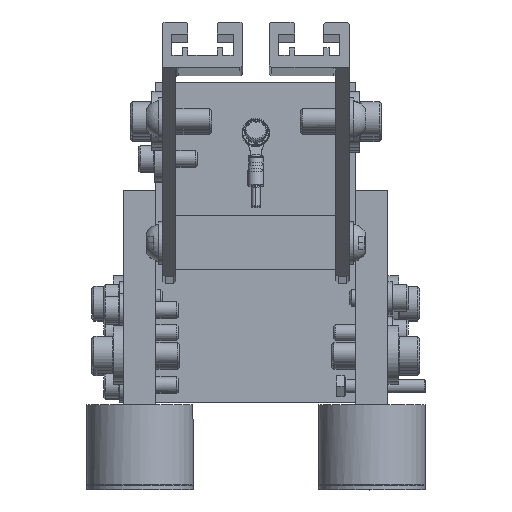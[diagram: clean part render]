
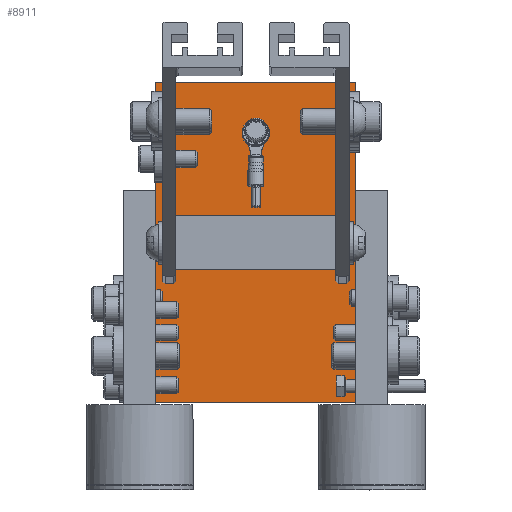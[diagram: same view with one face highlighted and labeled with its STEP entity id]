
A CAD part, top view. The second image highlights one B-rep face of the part: STEP entity #8911.
In plain terms, the highlighted planar face has unit normal (0, 0, 1).
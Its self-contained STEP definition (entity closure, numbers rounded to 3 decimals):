
#405=LINE('',#15056,#909);
#448=LINE('',#15381,#952);
#449=LINE('',#15384,#953);
#450=LINE('',#15386,#954);
#451=LINE('',#15388,#955);
#452=LINE('',#15389,#956);
#453=LINE('',#15391,#957);
#454=LINE('',#15392,#958);
#455=LINE('',#15394,#959);
#456=LINE('',#15396,#960);
#909=VECTOR('',#12255,1000.);
#952=VECTOR('',#12592,1000.);
#953=VECTOR('',#12593,1000.);
#954=VECTOR('',#12594,1000.);
#955=VECTOR('',#12595,1000.);
#956=VECTOR('',#12596,1000.);
#957=VECTOR('',#12597,1000.);
#958=VECTOR('',#12598,1000.);
#959=VECTOR('',#12599,1000.);
#960=VECTOR('',#12600,1000.);
#1461=PLANE('',#10038);
#3185=ORIENTED_EDGE('',*,*,#4649,.F.);
#3186=ORIENTED_EDGE('',*,*,#4650,.F.);
#3187=ORIENTED_EDGE('',*,*,#4651,.F.);
#3188=ORIENTED_EDGE('',*,*,#4652,.F.);
#3189=ORIENTED_EDGE('',*,*,#4512,.F.);
#3190=ORIENTED_EDGE('',*,*,#4653,.T.);
#3191=ORIENTED_EDGE('',*,*,#4654,.T.);
#3192=ORIENTED_EDGE('',*,*,#4655,.T.);
#3193=ORIENTED_EDGE('',*,*,#4656,.T.);
#3194=ORIENTED_EDGE('',*,*,#4657,.T.);
#4512=EDGE_CURVE('',#5419,#5420,#405,.T.);
#4649=EDGE_CURVE('',#5542,#5543,#448,.T.);
#4650=EDGE_CURVE('',#5544,#5542,#449,.T.);
#4651=EDGE_CURVE('',#5545,#5544,#450,.T.);
#4652=EDGE_CURVE('',#5420,#5545,#451,.T.);
#4653=EDGE_CURVE('',#5419,#5546,#452,.T.);
#4654=EDGE_CURVE('',#5546,#5483,#453,.T.);
#4655=EDGE_CURVE('',#5483,#5547,#454,.T.);
#4656=EDGE_CURVE('',#5547,#5548,#455,.T.);
#4657=EDGE_CURVE('',#5548,#5543,#456,.T.);
#5419=VERTEX_POINT('',#15057);
#5420=VERTEX_POINT('',#15058);
#5483=VERTEX_POINT('',#15219);
#5542=VERTEX_POINT('',#15382);
#5543=VERTEX_POINT('',#15383);
#5544=VERTEX_POINT('',#15385);
#5545=VERTEX_POINT('',#15387);
#5546=VERTEX_POINT('',#15390);
#5547=VERTEX_POINT('',#15393);
#5548=VERTEX_POINT('',#15395);
#6948=EDGE_LOOP('',(#3185,#3186,#3187,#3188,#3189,#3190,#3191,#3192,#3193,
#3194));
#7964=FACE_BOUND('',#6948,.T.);
#8911=ADVANCED_FACE('',(#7964),#1461,.T.);
#10038=AXIS2_PLACEMENT_3D('',#15380,#12590,#12591);
#12255=DIRECTION('',(0.,-1.,0.));
#12590=DIRECTION('',(0.,0.,1.));
#12591=DIRECTION('',(1.,0.,0.));
#12592=DIRECTION('',(-1.,0.,0.));
#12593=DIRECTION('',(0.,-1.,0.));
#12594=DIRECTION('',(0.,-1.,0.));
#12595=DIRECTION('',(0.,-1.,0.));
#12596=DIRECTION('',(-1.,0.,0.));
#12597=DIRECTION('',(0.,-1.,0.));
#12598=DIRECTION('',(0.,-1.,0.));
#12599=DIRECTION('',(0.,-1.,0.));
#12600=DIRECTION('',(0.,-1.,0.));
#15056=CARTESIAN_POINT('',(37.5,-62.5,-1735.));
#15057=CARTESIAN_POINT('',(37.5,-19.5,-1735.));
#15058=CARTESIAN_POINT('',(37.5,-62.5,-1735.));
#15219=CARTESIAN_POINT('',(-37.5,-62.5,-1735.));
#15380=CARTESIAN_POINT('',(37.5,-19.5,-1735.));
#15381=CARTESIAN_POINT('',(37.5,-139.5,-1735.));
#15382=CARTESIAN_POINT('',(37.5,-139.5,-1735.));
#15383=CARTESIAN_POINT('',(-37.5,-139.5,-1735.));
#15384=CARTESIAN_POINT('',(37.5,-19.5,-1735.));
#15385=CARTESIAN_POINT('',(37.5,-106.75,-1735.));
#15386=CARTESIAN_POINT('',(37.5,-62.5,-1735.));
#15387=CARTESIAN_POINT('',(37.5,-98.25,-1735.));
#15388=CARTESIAN_POINT('',(37.5,-19.5,-1735.));
#15389=CARTESIAN_POINT('',(37.5,-19.5,-1735.));
#15390=CARTESIAN_POINT('',(-37.5,-19.5,-1735.));
#15391=CARTESIAN_POINT('',(-37.5,-19.5,-1735.));
#15392=CARTESIAN_POINT('',(-37.5,-19.5,-1735.));
#15393=CARTESIAN_POINT('',(-37.5,-98.25,-1735.));
#15394=CARTESIAN_POINT('',(-37.5,-19.5,-1735.));
#15395=CARTESIAN_POINT('',(-37.5,-106.75,-1735.));
#15396=CARTESIAN_POINT('',(-37.5,-19.5,-1735.));
